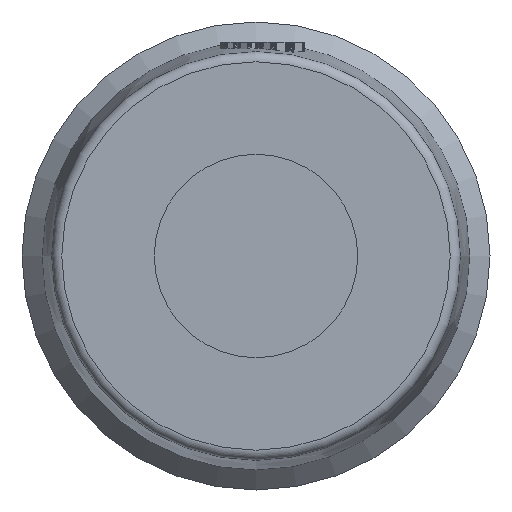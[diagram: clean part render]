
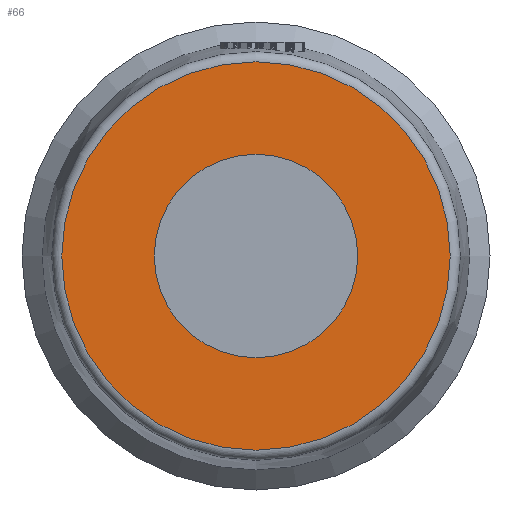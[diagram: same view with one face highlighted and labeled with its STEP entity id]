
A CAD part, left-side view. The second image highlights one B-rep face of the part: STEP entity #66.
In plain terms, the highlighted planar face has unit normal (-1, 0, 0).
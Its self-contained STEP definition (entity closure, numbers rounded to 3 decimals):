
#66=ADVANCED_FACE('',(#8020,#8022),#8024,.T.);
#8020=FACE_BOUND('',#8021,.T.);
#8021=EDGE_LOOP('',(#16176,#16177));
#8022=FACE_BOUND('',#8023,.T.);
#8023=EDGE_LOOP('',(#16178,#16179));
#8024=PLANE('',#8025);
#8025=AXIS2_PLACEMENT_3D('',#8026,#8027,#8028);
#8026=CARTESIAN_POINT('',(2642.72,3039.852,0.));
#8027=DIRECTION('',(-1.,0.,0.));
#8028=DIRECTION('',(0.,0.,1.));
#16176=ORIENTED_EDGE('',*,*,#20865,.F.);
#16177=ORIENTED_EDGE('',*,*,#20864,.F.);
#16178=ORIENTED_EDGE('',*,*,#21368,.T.);
#16179=ORIENTED_EDGE('',*,*,#21369,.T.);
#20864=EDGE_CURVE('',#23463,#23464,#23465,.T.);
#20865=EDGE_CURVE('',#23464,#23463,#23466,.T.);
#21368=EDGE_CURVE('',#24471,#24472,#24473,.T.);
#21369=EDGE_CURVE('',#24472,#24471,#24474,.T.);
#23463=VERTEX_POINT('',#27809);
#23464=VERTEX_POINT('',#27810);
#23465=CIRCLE('',#27811,19.087);
#23466=CIRCLE('',#27815,19.087);
#24471=VERTEX_POINT('',#30871);
#24472=VERTEX_POINT('',#30872);
#24473=CIRCLE('',#30873,10.);
#24474=CIRCLE('',#30877,10.);
#27809=CARTESIAN_POINT('',(2642.72,3038.939,0.));
#27810=CARTESIAN_POINT('',(2642.72,3000.765,0.));
#27811=AXIS2_PLACEMENT_3D('',#27812,#27813,#27814);
#27812=CARTESIAN_POINT('',(2642.72,3019.852,0.));
#27813=DIRECTION('',(1.,0.,0.));
#27814=DIRECTION('',(0.,1.,0.));
#27815=AXIS2_PLACEMENT_3D('',#27816,#27817,#27818);
#27816=CARTESIAN_POINT('',(2642.72,3019.852,0.));
#27817=DIRECTION('',(1.,0.,0.));
#27818=DIRECTION('',(0.,-1.,0.));
#30871=CARTESIAN_POINT('',(2642.72,3029.852,0.));
#30872=CARTESIAN_POINT('',(2642.72,3009.852,0.));
#30873=AXIS2_PLACEMENT_3D('',#30874,#30875,#30876);
#30874=CARTESIAN_POINT('',(2642.72,3019.852,0.));
#30875=DIRECTION('',(1.,0.,0.));
#30876=DIRECTION('',(0.,1.,0.));
#30877=AXIS2_PLACEMENT_3D('',#30878,#30879,#30880);
#30878=CARTESIAN_POINT('',(2642.72,3019.852,0.));
#30879=DIRECTION('',(1.,0.,0.));
#30880=DIRECTION('',(0.,-1.,0.));
